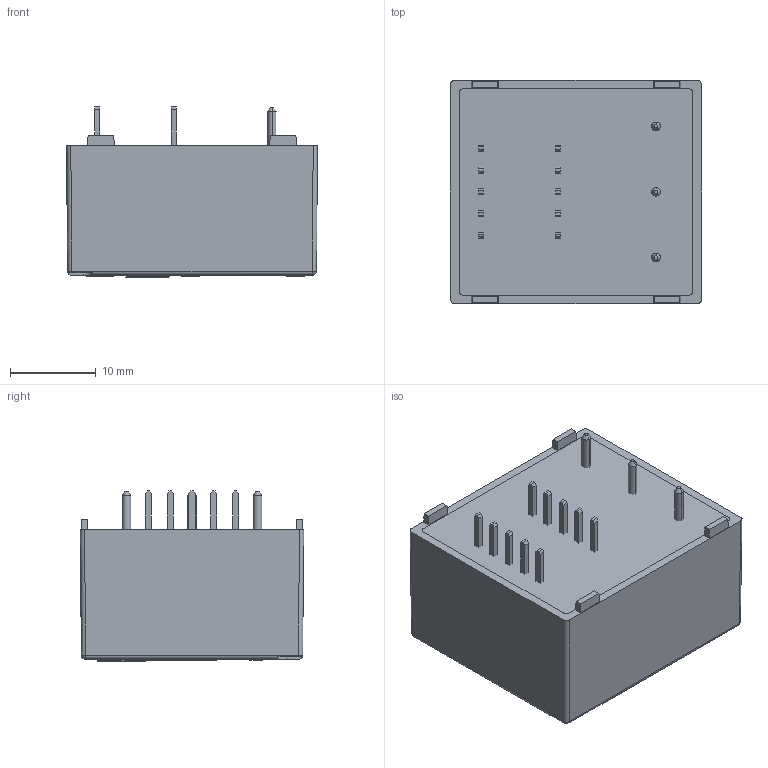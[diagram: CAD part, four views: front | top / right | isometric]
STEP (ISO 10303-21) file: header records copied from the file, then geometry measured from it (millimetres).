
FILE_DESCRIPTION(('CoCreate Modeling STEP Export'),'2;1');
FILE_NAME('LA25-NP.stp','2009-01-28T13:26:52',(''),(''),'CoCreate Modeling STEP processor for AP214 (Solid Model)','CoCreate Modeling 16.00A 16-Aug-2008 (C) Parametric Technology GmbH','');
FILE_SCHEMA(('AUTOMOTIVE_DESIGN { 1 0 10303 214 1 1 1 1 }'));
Length unit declared in the file: millimetre
Products named in the file (13): pin_spire1; pin_spire2; pin_spire3; pin_spire4; pin_spire5; Spires_prim.1; boitier.1; moulage; pin_mesure_M; pin_mesure_Moins; pin_mesure_Plus; Pins_mesure.1; Blackbox
Assembly tree (12 placements, depth 3):
  Blackbox
    Pins_mesure.1
      pin_mesure_Plus
      pin_mesure_Moins
      pin_mesure_M
    moulage
    boitier.1
    Spires_prim.1
      pin_spire5
      pin_spire4
      pin_spire3
      pin_spire2
      pin_spire1
Bounding box: 29.2 x 26 x 19.8 mm (x, y, z)
Volume: 11515.7 mm3; surface area: 5461.6 mm2
Topology: 10 solids, 10 shells, 636 faces, 1663 edges, 1079 vertices
Faces by surface type: plane 447, cylinder 137, torus 36, cone 12, sphere 4
Entity records: 20903 total; most frequent: CARTESIAN_POINT 5425, ORIENTED_EDGE 3320, DIRECTION 2873, EDGE_CURVE 1660, VECTOR 1259, LINE 1259, VERTEX_POINT 1079, AXIS2_PLACEMENT_3D 807
